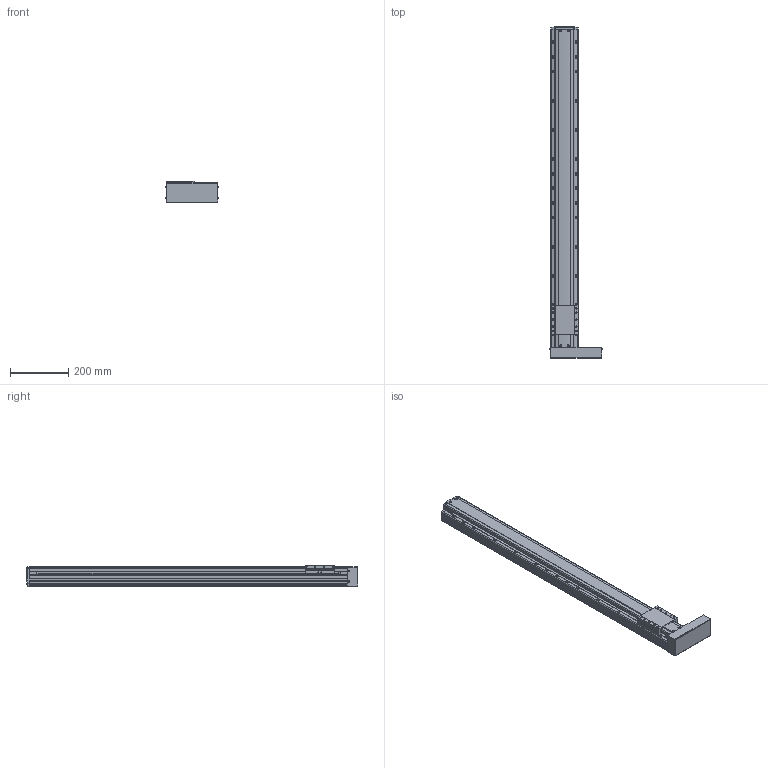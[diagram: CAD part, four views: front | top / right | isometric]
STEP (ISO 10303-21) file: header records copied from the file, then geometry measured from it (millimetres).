
FILE_DESCRIPTION(('STEP AP214'),'1');
FILE_NAME('Z:/Web/3D/PSA95/STP/PSA95-900 (3D)/PSA95ㅁㅁ-900PR.stp','2014-07-03T00:55:33',(' '),(' '),'Spatial InterOp 3D',' ',' ');
FILE_SCHEMA(('automotive_design'));
Length unit declared in the file: millimetre
Products named in the file (23): BASE; RRCV; 스크루 : Round - M4.0 x 10.0; 너트 : Square - M10.0 x 220.7419; RR1500; FRCV-090; 스크루 : Round - M4.0 x 6.0; SLBL-PA90; MOTOR PLATE COVER; 스크루 : Round - M3.0 x 6.0
Bounding box: 179.13 x 1136.5 x 74 mm (x, y, z)
Volume: 6308837.6 mm3; surface area: 616324.3 mm2
Topology: 23 solids, 23 shells, 1999 faces, 5378 edges, 3414 vertices
Faces by surface type: plane 1063, cylinder 643, cone 213, sphere 42, bspline 24, torus 14
Entity records: 80666 total; most frequent: CARTESIAN_POINT 13965, DIRECTION 10584, ORIENTED_EDGE 10452, EDGE_CURVE 5226, AXIS2_PLACEMENT_3D 3547, LINE 3490, VECTOR 3490, VERTEX_POINT 3414
